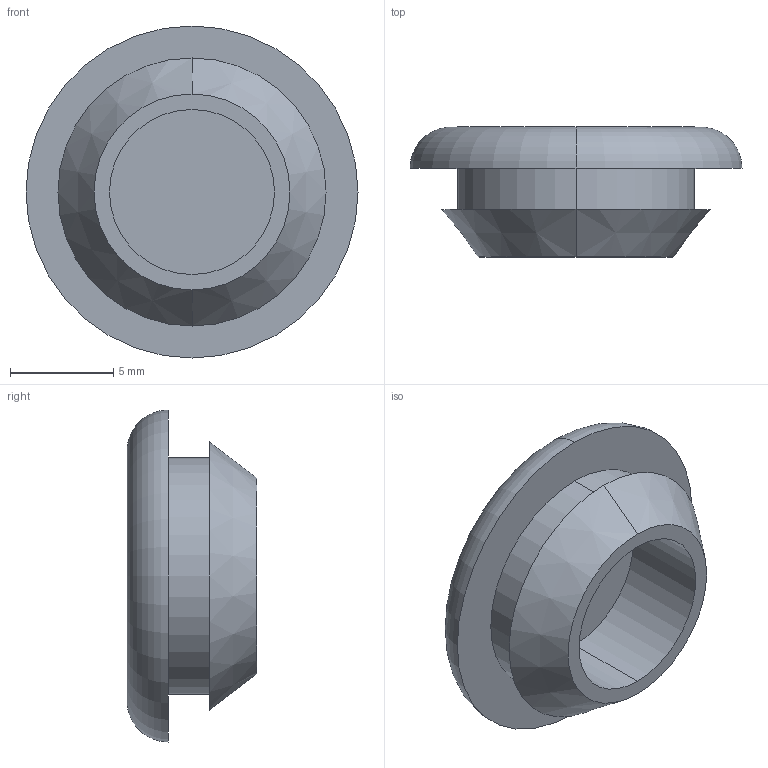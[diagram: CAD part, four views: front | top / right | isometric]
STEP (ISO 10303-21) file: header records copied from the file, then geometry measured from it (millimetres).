
FILE_DESCRIPTION (( 'STEP AP203' ), '1' );
FILE_NAME ('013.202.001.STEP', '2021-03-24T07:41:59', ( '' ), ( '' ), 'SwSTEP 2.0', 'SolidWorks 2018', '' );
FILE_SCHEMA (( 'CONFIG_CONTROL_DESIGN' ));
Length unit declared in the file: millimetre
Products named in the file (1): 013.202.001
Bounding box: 16.1 x 6.3 x 16.1 mm (x, y, z)
Volume: 588.2 mm3; surface area: 741.5 mm2
Topology: 1 solids, 1 shells, 13 faces, 24 edges, 16 vertices
Faces by surface type: plane 5, cylinder 4, torus 2, cone 2
Entity records: 413 total; most frequent: DIRECTION 70, CARTESIAN_POINT 54, ORIENTED_EDGE 48, AXIS2_PLACEMENT_3D 32, EDGE_CURVE 24, CIRCLE 18, VERTEX_POINT 16, EDGE_LOOP 16
